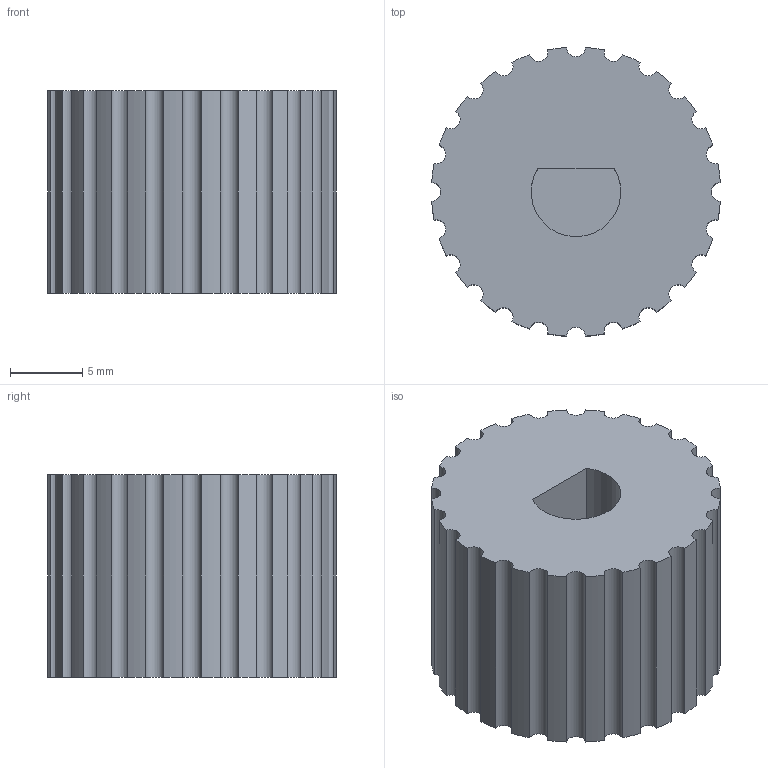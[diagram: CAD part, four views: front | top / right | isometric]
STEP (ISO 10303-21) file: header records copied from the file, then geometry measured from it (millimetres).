
FILE_DESCRIPTION(('Open CASCADE Model'),'2;1');
FILE_NAME('Open CASCADE Shape Model','2026-09-13T21:36:16',('Author'),( 'Open CASCADE'),'Open CASCADE STEP processor 7.9','Open CASCADE 7.9' ,'Unknown');
FILE_SCHEMA(('AUTOMOTIVE_DESIGN { 1 0 10303 214 1 1 1 1 }'));
Length unit declared in the file: millimetre
Products named in the file (1): Open CASCADE STEP translator 7.9 18
Bounding box: 19.96 x 19.96 x 14 mm (x, y, z)
Volume: 3905.1 mm3; surface area: 1921.3 mm2
Topology: 1 solids, 1 shells, 58 faces, 162 edges, 108 vertices
Faces by surface type: cylinder 49, plane 9
Entity records: 3969 total; most frequent: CARTESIAN_POINT 841, DIRECTION 579, ORIENTED_EDGE 324, PCURVE 324, DEFINITIONAL_REPRESENTATION 324, CIRCLE 183, LINE 180, VECTOR 180
